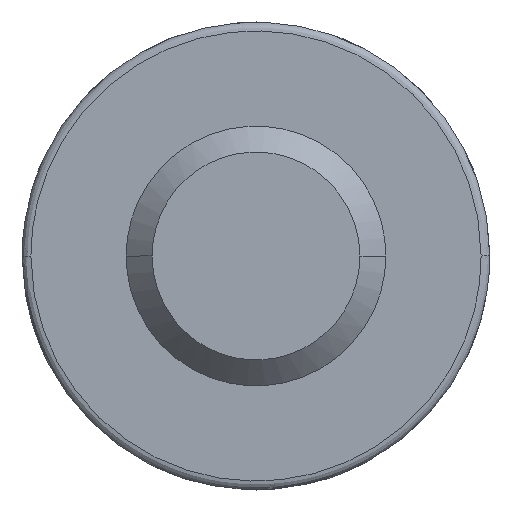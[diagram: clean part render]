
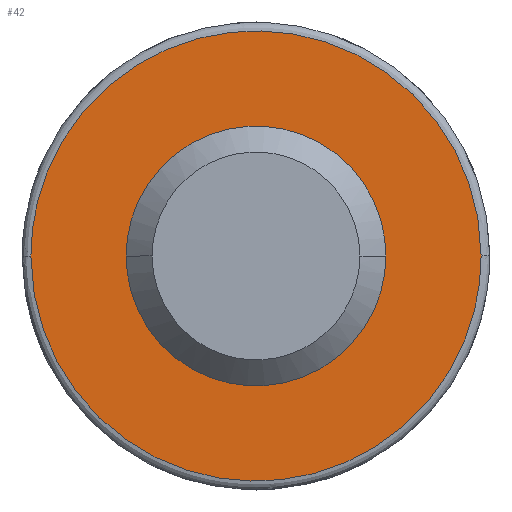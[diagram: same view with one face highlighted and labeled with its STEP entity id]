
A CAD part, front view. The second image highlights one B-rep face of the part: STEP entity #42.
In plain terms, the highlighted planar face has unit normal (0, -1, 0).
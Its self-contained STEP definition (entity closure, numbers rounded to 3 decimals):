
#15=FACE_BOUND('',#111,.T.);
#42=ADVANCED_FACE('',(#76,#15),#476,.T.);
#76=FACE_OUTER_BOUND('',#110,.T.);
#110=EDGE_LOOP('',(#241,#242));
#111=EDGE_LOOP('',(#243,#244));
#241=ORIENTED_EDGE('',*,*,#337,.T.);
#242=ORIENTED_EDGE('',*,*,#334,.T.);
#243=ORIENTED_EDGE('',*,*,#343,.F.);
#244=ORIENTED_EDGE('',*,*,#271,.F.);
#271=EDGE_CURVE('',#423,#465,#407,.T.);
#334=EDGE_CURVE('',#462,#461,#412,.T.);
#337=EDGE_CURVE('',#461,#462,#415,.T.);
#343=EDGE_CURVE('',#465,#423,#420,.T.);
#407=(
BOUNDED_CURVE()
B_SPLINE_CURVE(2,(#1171,#1172,#1173,#1174,#1175),.UNSPECIFIED.,.F.,.F.)
B_SPLINE_CURVE_WITH_KNOTS((3,2,3),(0.,2.356,4.712),
 .UNSPECIFIED.)
CURVE()
GEOMETRIC_REPRESENTATION_ITEM()
RATIONAL_B_SPLINE_CURVE((1.,0.707,1.,0.707,1.))
REPRESENTATION_ITEM('')
);
#412=(
BOUNDED_CURVE()
B_SPLINE_CURVE(2,(#1494,#1495,#1496,#1497,#1498),.UNSPECIFIED.,.F.,.F.)
B_SPLINE_CURVE_WITH_KNOTS((3,2,3),(0.,4.084,
8.167),.UNSPECIFIED.)
CURVE()
GEOMETRIC_REPRESENTATION_ITEM()
RATIONAL_B_SPLINE_CURVE((1.,0.707,1.,0.707,1.))
REPRESENTATION_ITEM('')
);
#415=(
BOUNDED_CURVE()
B_SPLINE_CURVE(2,(#1507,#1508,#1509,#1510,#1511),.UNSPECIFIED.,.F.,.F.)
B_SPLINE_CURVE_WITH_KNOTS((3,2,3),(0.,4.083,
8.167),.UNSPECIFIED.)
CURVE()
GEOMETRIC_REPRESENTATION_ITEM()
RATIONAL_B_SPLINE_CURVE((1.,0.707,1.,0.707,1.))
REPRESENTATION_ITEM('')
);
#420=(
BOUNDED_CURVE()
B_SPLINE_CURVE(2,(#1529,#1530,#1531,#1532,#1533),.UNSPECIFIED.,.F.,.F.)
B_SPLINE_CURVE_WITH_KNOTS((3,2,3),(4.712,7.069,9.425),
 .UNSPECIFIED.)
CURVE()
GEOMETRIC_REPRESENTATION_ITEM()
RATIONAL_B_SPLINE_CURVE((1.,0.707,1.,0.707,1.))
REPRESENTATION_ITEM('')
);
#423=VERTEX_POINT('',#1126);
#461=VERTEX_POINT('',#1164);
#462=VERTEX_POINT('',#1165);
#465=VERTEX_POINT('',#1168);
#476=PLANE('',#530);
#530=AXIS2_PLACEMENT_3D('',#1054,#543,$);
#543=DIRECTION('',(0.,-1.,0.));
#1054=CARTESIAN_POINT('',(364.954,431.398,0.));
#1126=CARTESIAN_POINT('',(338.43,431.398,407.144));
#1164=CARTESIAN_POINT('',(339.53,431.398,407.144));
#1165=CARTESIAN_POINT('',(334.33,431.398,407.144));
#1168=CARTESIAN_POINT('',(335.43,431.398,407.144));
#1171=CARTESIAN_POINT('',(338.43,431.398,407.144));
#1172=CARTESIAN_POINT('',(338.43,431.398,408.644));
#1173=CARTESIAN_POINT('',(336.93,431.398,408.644));
#1174=CARTESIAN_POINT('',(335.43,431.398,408.644));
#1175=CARTESIAN_POINT('',(335.43,431.398,407.144));
#1494=CARTESIAN_POINT('',(334.33,431.398,407.144));
#1495=CARTESIAN_POINT('',(334.33,431.398,404.545));
#1496=CARTESIAN_POINT('',(336.93,431.398,404.545));
#1497=CARTESIAN_POINT('',(339.53,431.398,404.545));
#1498=CARTESIAN_POINT('',(339.53,431.398,407.144));
#1507=CARTESIAN_POINT('',(339.53,431.398,407.144));
#1508=CARTESIAN_POINT('',(339.53,431.398,409.744));
#1509=CARTESIAN_POINT('',(336.93,431.398,409.744));
#1510=CARTESIAN_POINT('',(334.33,431.398,409.744));
#1511=CARTESIAN_POINT('',(334.33,431.398,407.144));
#1529=CARTESIAN_POINT('',(335.43,431.398,407.144));
#1530=CARTESIAN_POINT('',(335.43,431.398,405.644));
#1531=CARTESIAN_POINT('',(336.93,431.398,405.644));
#1532=CARTESIAN_POINT('',(338.43,431.398,405.644));
#1533=CARTESIAN_POINT('',(338.43,431.398,407.144));
